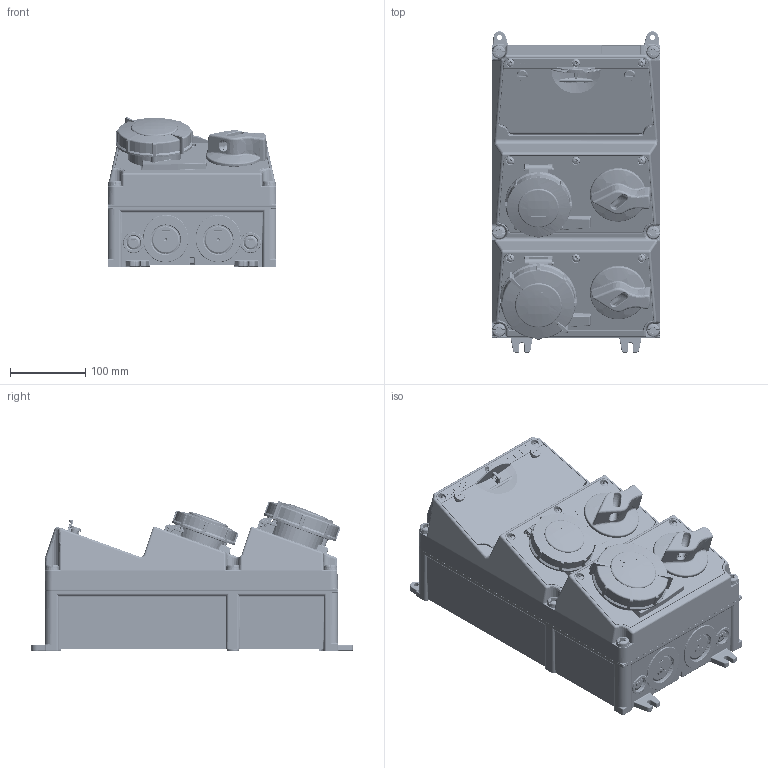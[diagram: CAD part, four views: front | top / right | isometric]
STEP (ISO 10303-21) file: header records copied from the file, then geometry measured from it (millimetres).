
FILE_DESCRIPTION((''),'2;1');
FILE_NAME('933413-2_ASM_1_ASM','2018-05-25T',('kremer'),('MENNEKES'),'PRO/ENGINEER BY PARAMETRIC TECHNOLOGY CORPORATION, 2015440','PRO/ENGINEER BY PARAMETRIC TECHNOLOGY CORPORATION, 2015440','');
FILE_SCHEMA(('AUTOMOTIVE_DESIGN { 1 0 10303 214 1 1 1 1 }'));
Products named in the file (12): 3-4_SW_O_GRAU_1; MP_FEN10_67_OBEN_GRAU_1; MANIFOLD_SOLID_BREP_293024; MANIFOLD_SOLID_BREP_381387; MANIFOLD_SOLID_BREP_381724; MANIFOLD_SOLID_BREP_384203; FI_4POL_4TE_1_ASM; LS_3POL_3TE_1; BAUTEIL_DUMMY__1; MP_DUO_32_5_67_ROT_GRAU_1; MP_DUO_16_5_67_ROT_GRAU_1; 933413-2_ASM_1_ASM
Assembly tree (12 placements, depth 3):
  933413-2_ASM_1_ASM
    3-4_SW_O_GRAU_1
    MP_FEN10_67_OBEN_GRAU_1
    FI_4POL_4TE_1_ASM
      MANIFOLD_SOLID_BREP_293024
      MANIFOLD_SOLID_BREP_381387
      MANIFOLD_SOLID_BREP_381724
      MANIFOLD_SOLID_BREP_384203
    LS_3POL_3TE_1  x2
    BAUTEIL_DUMMY__1
    MP_DUO_32_5_67_ROT_GRAU_1
    MP_DUO_16_5_67_ROT_GRAU_1
Bounding box: 225 x 428.2 x 199.08 mm (x, y, z)
Volume: 9799412.9 mm3; surface area: 1061555.8 mm2
Topology: 10 solids, 10 shells, 14106 faces, 38875 edges, 24875 vertices
Faces by surface type: plane 7949, cylinder 3167, bspline 1159, torus 1027, cone 407, sphere 279, extrusion 118
Entity records: 638856 total; most frequent: CARTESIAN_POINT 166652, ORIENTED_EDGE 72336, DIRECTION 62923, EDGE_CURVE 36168, PRESENTATION_STYLE_ASSIGNMENT 29671, STYLED_ITEM 24466, VERTEX_POINT 23245, VECTOR 22847
